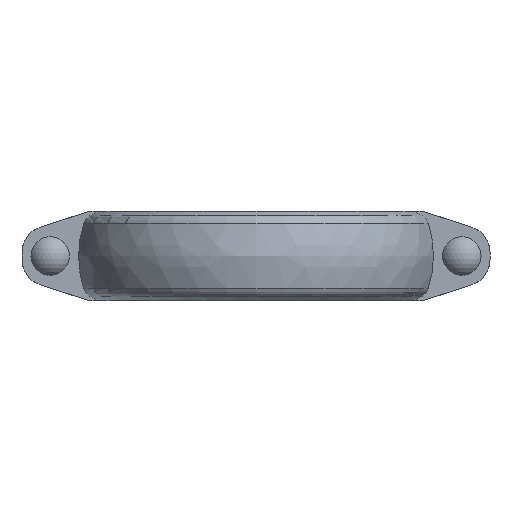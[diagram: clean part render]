
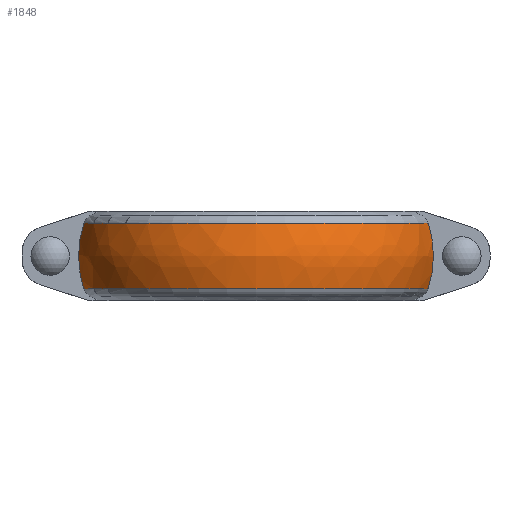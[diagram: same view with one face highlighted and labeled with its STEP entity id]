
A CAD part, front view. The second image highlights one B-rep face of the part: STEP entity #1848.
In plain terms, the highlighted free-form (B-spline) face has degree [2, 2] with [3, 5] control points.
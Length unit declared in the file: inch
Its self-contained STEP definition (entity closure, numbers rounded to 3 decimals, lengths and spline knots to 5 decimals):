
#27=(
BOUNDED_SURFACE()
B_SPLINE_SURFACE(2,2,((#3297,#3298,#3299,#3300,#3301),(#3302,#3303,#3304,
#3305,#3306),(#3307,#3308,#3309,#3310,#3311)),.UNSPECIFIED.,.F.,.F.,.F.)
B_SPLINE_SURFACE_WITH_KNOTS((3,3),(3,2,3),(-0.31217,0.31217),
(0.24036,1.5708,2.90124),.UNSPECIFIED.)
GEOMETRIC_REPRESENTATION_ITEM()
RATIONAL_B_SPLINE_SURFACE(((1.,0.787,1.,0.787,1.),
(0.952,0.749,0.952,0.749,
0.952),(1.,0.787,1.,0.787,1.)))
REPRESENTATION_ITEM('')
SURFACE()
);
#29=B_SPLINE_CURVE_WITH_KNOTS('',3,(#3038,#3039,#3040,#3041,#3042,#3043,
#3044,#3045,#3046,#3047,#3048,#3049,#3050,#3051,#3052,#3053,#3054,#3055),
 .UNSPECIFIED.,.F.,.F.,(4,2,2,2,2,2,2,2,4),(13.72412,13.87981,
14.57129,15.26277,15.95424,16.64572,17.3372,
18.02868,18.18437),.UNSPECIFIED.);
#35=B_SPLINE_CURVE_WITH_KNOTS('',3,(#3158,#3159,#3160,#3161,#3162,#3163,
#3164,#3165,#3166,#3167,#3168,#3169,#3170,#3171,#3172,#3173,#3174,#3175),
 .UNSPECIFIED.,.F.,.F.,(4,2,2,2,2,2,2,2,4),(45.63261,45.7883,
46.47978,47.17125,47.86273,48.55421,49.24569,
49.93717,50.09286),.UNSPECIFIED.);
#232=FACE_OUTER_BOUND('',#341,.T.);
#341=EDGE_LOOP('',(#1633,#1634,#1635,#1636));
#692=CIRCLE('',#2068,4.98001);
#697=CIRCLE('',#2079,4.98001);
#849=VERTEX_POINT('',#3024);
#850=VERTEX_POINT('',#3037);
#861=VERTEX_POINT('',#3144);
#862=VERTEX_POINT('',#3157);
#1084=EDGE_CURVE('',#850,#849,#29,.T.);
#1102=EDGE_CURVE('',#862,#861,#35,.T.);
#1120=EDGE_CURVE('',#862,#849,#692,.T.);
#1126=EDGE_CURVE('',#861,#850,#697,.T.);
#1633=ORIENTED_EDGE('',*,*,#1084,.T.);
#1634=ORIENTED_EDGE('',*,*,#1120,.F.);
#1635=ORIENTED_EDGE('',*,*,#1102,.T.);
#1636=ORIENTED_EDGE('',*,*,#1126,.T.);
#1848=ADVANCED_FACE('',(#232),#27,.F.);
#2068=AXIS2_PLACEMENT_3D('',#3282,#2563,#2564);
#2079=AXIS2_PLACEMENT_3D('',#3296,#2586,#2587);
#2563=DIRECTION('center_axis',(0.,0.,-1.));
#2564=DIRECTION('ref_axis',(1.,0.,0.));
#2586=DIRECTION('center_axis',(0.,0.,-1.));
#2587=DIRECTION('ref_axis',(1.,0.,0.));
#3024=CARTESIAN_POINT('',(4.82826,1.22,-0.92137));
#3037=CARTESIAN_POINT('',(4.82826,1.22,0.92137));
#3038=CARTESIAN_POINT('Ctrl Pts',(4.82826,1.22,0.92137));
#3039=CARTESIAN_POINT('Ctrl Pts',(4.83508,1.22,0.90088));
#3040=CARTESIAN_POINT('Ctrl Pts',(4.84172,1.22,0.88019));
#3041=CARTESIAN_POINT('Ctrl Pts',(4.87671,1.22,0.76669));
#3042=CARTESIAN_POINT('Ctrl Pts',(4.90118,1.22,0.67067));
#3043=CARTESIAN_POINT('Ctrl Pts',(4.94012,1.22,0.47667));
#3044=CARTESIAN_POINT('Ctrl Pts',(4.95459,1.22,0.37865));
#3045=CARTESIAN_POINT('Ctrl Pts',(4.97337,1.22,0.18568));
#3046=CARTESIAN_POINT('Ctrl Pts',(4.97767,1.22,0.09075));
#3047=CARTESIAN_POINT('Ctrl Pts',(4.97767,1.22,-0.09075));
#3048=CARTESIAN_POINT('Ctrl Pts',(4.97337,1.22,-0.18568));
#3049=CARTESIAN_POINT('Ctrl Pts',(4.95459,1.22,-0.37865));
#3050=CARTESIAN_POINT('Ctrl Pts',(4.94012,1.22,-0.47667));
#3051=CARTESIAN_POINT('Ctrl Pts',(4.90118,1.22,-0.67067));
#3052=CARTESIAN_POINT('Ctrl Pts',(4.87671,1.22,-0.76669));
#3053=CARTESIAN_POINT('Ctrl Pts',(4.84172,1.22,-0.88019));
#3054=CARTESIAN_POINT('Ctrl Pts',(4.83508,1.22,-0.90088));
#3055=CARTESIAN_POINT('Ctrl Pts',(4.82826,1.22,-0.92137));
#3144=CARTESIAN_POINT('',(-4.82826,1.22,0.92137));
#3157=CARTESIAN_POINT('',(-4.82826,1.22,-0.92137));
#3158=CARTESIAN_POINT('Ctrl Pts',(-4.82826,1.22,-0.92137));
#3159=CARTESIAN_POINT('Ctrl Pts',(-4.83508,1.22,-0.90088));
#3160=CARTESIAN_POINT('Ctrl Pts',(-4.84172,1.22,-0.88019));
#3161=CARTESIAN_POINT('Ctrl Pts',(-4.87671,1.22,-0.76669));
#3162=CARTESIAN_POINT('Ctrl Pts',(-4.90118,1.22,-0.67067));
#3163=CARTESIAN_POINT('Ctrl Pts',(-4.94012,1.22,-0.47667));
#3164=CARTESIAN_POINT('Ctrl Pts',(-4.95459,1.22,-0.37865));
#3165=CARTESIAN_POINT('Ctrl Pts',(-4.97337,1.22,-0.18568));
#3166=CARTESIAN_POINT('Ctrl Pts',(-4.97767,1.22,-0.09075));
#3167=CARTESIAN_POINT('Ctrl Pts',(-4.97767,1.22,0.09075));
#3168=CARTESIAN_POINT('Ctrl Pts',(-4.97337,1.22,0.18568));
#3169=CARTESIAN_POINT('Ctrl Pts',(-4.95459,1.22,0.37865));
#3170=CARTESIAN_POINT('Ctrl Pts',(-4.94012,1.22,0.47667));
#3171=CARTESIAN_POINT('Ctrl Pts',(-4.90118,1.22,0.67067));
#3172=CARTESIAN_POINT('Ctrl Pts',(-4.87671,1.22,0.76669));
#3173=CARTESIAN_POINT('Ctrl Pts',(-4.84172,1.22,0.88019));
#3174=CARTESIAN_POINT('Ctrl Pts',(-4.83508,1.22,0.90088));
#3175=CARTESIAN_POINT('Ctrl Pts',(-4.82826,1.22,0.92137));
#3282=CARTESIAN_POINT('Origin',(0.,0.,-0.92137));
#3296=CARTESIAN_POINT('Origin',(0.,0.,0.92137));
#3297=CARTESIAN_POINT('Ctrl Pts',(-4.83685,1.18549,0.92137));
#3298=CARTESIAN_POINT('Ctrl Pts',(-3.90683,4.98001,0.92137));
#3299=CARTESIAN_POINT('Ctrl Pts',(0.,4.98001,0.92137));
#3300=CARTESIAN_POINT('Ctrl Pts',(3.90683,4.98001,0.92137));
#3301=CARTESIAN_POINT('Ctrl Pts',(4.83685,1.18549,0.92137));
#3302=CARTESIAN_POINT('Ctrl Pts',(-5.12565,1.25627,0.));
#3303=CARTESIAN_POINT('Ctrl Pts',(-4.1401,5.27735,0.));
#3304=CARTESIAN_POINT('Ctrl Pts',(0.,5.27735,0.));
#3305=CARTESIAN_POINT('Ctrl Pts',(4.1401,5.27735,0.));
#3306=CARTESIAN_POINT('Ctrl Pts',(5.12565,1.25627,0.));
#3307=CARTESIAN_POINT('Ctrl Pts',(-4.83685,1.18549,-0.92137));
#3308=CARTESIAN_POINT('Ctrl Pts',(-3.90683,4.98001,-0.92137));
#3309=CARTESIAN_POINT('Ctrl Pts',(0.,4.98001,-0.92137));
#3310=CARTESIAN_POINT('Ctrl Pts',(3.90683,4.98001,-0.92137));
#3311=CARTESIAN_POINT('Ctrl Pts',(4.83685,1.18549,-0.92137));
